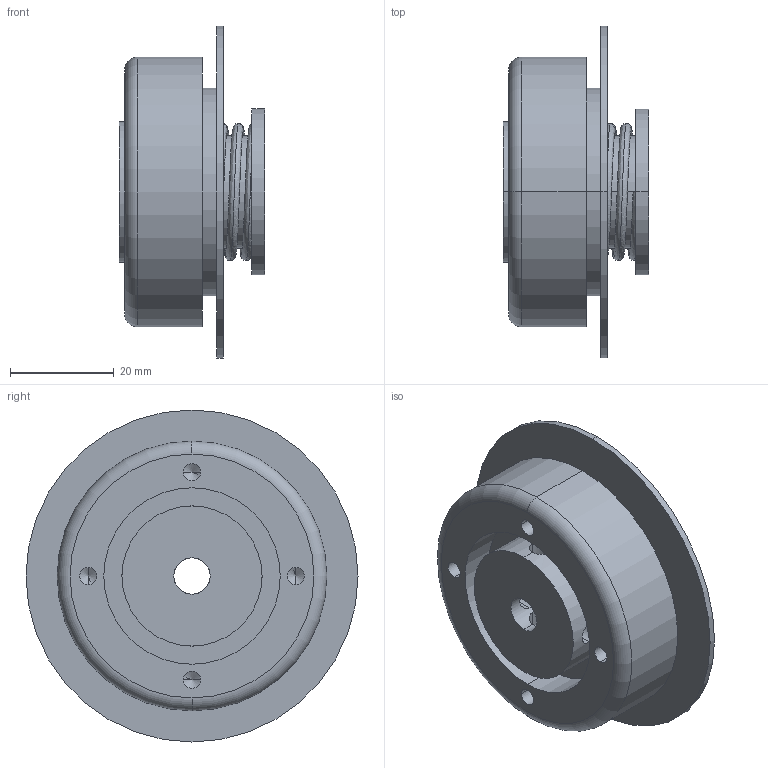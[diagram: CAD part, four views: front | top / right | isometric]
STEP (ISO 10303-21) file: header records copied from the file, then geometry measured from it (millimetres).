
FILE_DESCRIPTION (( 'STEP AP203' ), '1' );
FILE_NAME ('ST4C-045C.STEP', '2009-09-30T17:52:38', ( 'USER' ), ( 'HOME' ), 'SwSTEP 2.0', 'SolidWorks 2007', '' );
FILE_SCHEMA (( 'CONFIG_CONTROL_DESIGN' ));
Length unit declared in the file: millimetre
Products named in the file (1): ST4C-045C
Bounding box: 28 x 64 x 64 mm (x, y, z)
Volume: 38080.9 mm3; surface area: 18578.8 mm2
Topology: 2 solids, 2 shells, 60 faces, 146 edges, 90 vertices
Faces by surface type: cylinder 36, plane 12, cone 8, torus 2, bspline 2
Entity records: 2995 total; most frequent: CARTESIAN_POINT 1533, DIRECTION 294, ORIENTED_EDGE 276, EDGE_CURVE 138, AXIS2_PLACEMENT_3D 123, VERTEX_POINT 90, EDGE_LOOP 78, CIRCLE 64
